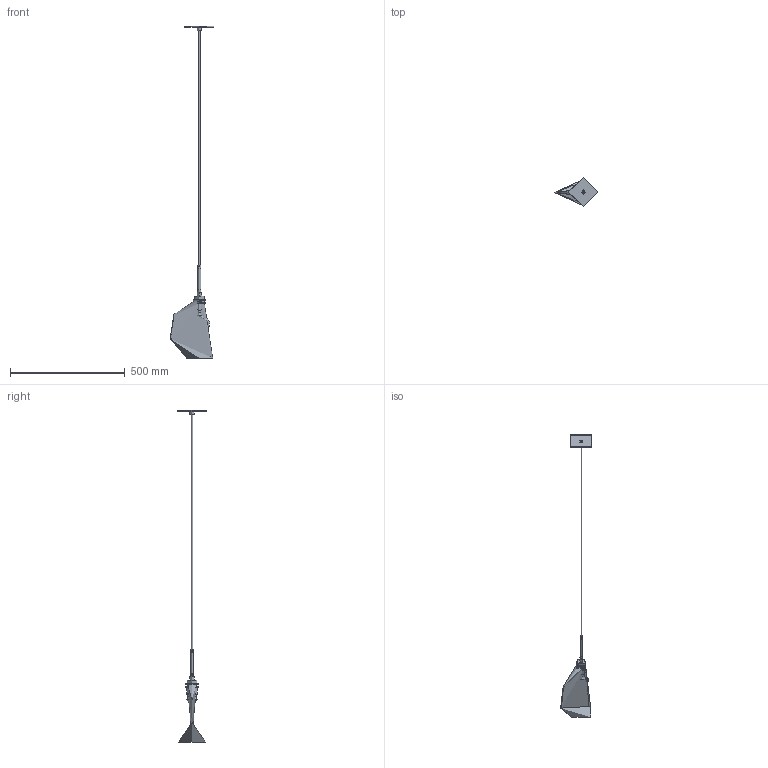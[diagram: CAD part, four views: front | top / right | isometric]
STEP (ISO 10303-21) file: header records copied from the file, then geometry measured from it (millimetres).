
FILE_DESCRIPTION(/* description */ (''),/* implementation_level */ '2;1');
FILE_NAME(/* name */ 'C:/Users/zach/Niche/Product Development - Documents/CAD Models/Pendants/Solitaire/CAD Models/Glass - Luxe Hardware/Niche - Solitaire Pendant .step',/* time_stamp */ '2022-04-15T09:25:42-04:00',/* author */ (''),/* organization */ (''),/* preprocessor_version */ 'ST-DEVELOPER v18.1',/* originating_system */ 'Autodesk Translation Framework v10.10.0.1391',/* authorisation */ '');
FILE_SCHEMA (('AUTOMOTIVE_DESIGN { 1 0 10303 214 3 1 1 }'));
Length unit declared in the file: inch
Products named in the file (1): Solitaire
Bounding box: 190.74 x 127 x 1448.56 mm (x, y, z)
Topology: 12 solids, 13 shells, 202 faces, 506 edges, 330 vertices
Faces by surface type: cylinder 123, plane 47, cone 15, bspline 13, torus 4
Full cylindrical faces by diameter (mm): 4.529 x1, 5.08 x1, 6.096 x1, 6.35 x1, 6.5 x1, 7.62 x1, 7.744 x7, 8.036 x15, 8.852 x1, 8.884 x8, 9.035 x1, 9.146 x11, 10.16 x1, 12.7 x2, 19.05 x1, 19.2 x1, 26.022 x1, 34.97 x1, 35.052 x9, 37.85 x8, 39 x1, 39.35 x1, 40.005 x1, 41.035 x1, 41.2 x1, 41.884 x1, 44 x1, 55 x2, 125.476 x1, 127 x1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
Entity records: 14620 total; most frequent: CARTESIAN_POINT 10071, ORIENTED_EDGE 1004, DIRECTION 768, EDGE_CURVE 502, VERTEX_POINT 330, AXIS2_PLACEMENT_3D 294, EDGE_LOOP 230, B_SPLINE_CURVE_WITH_KNOTS 218
